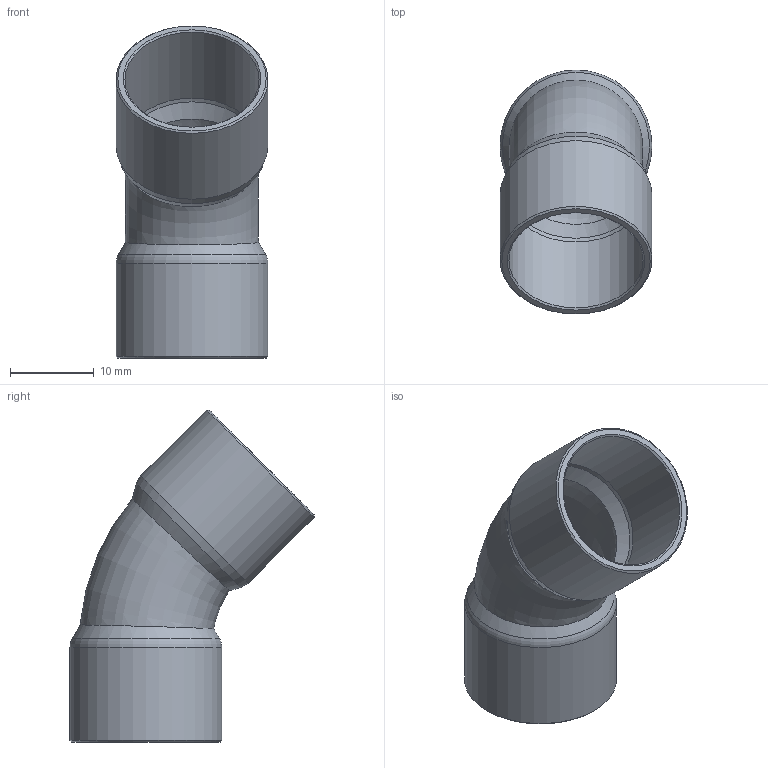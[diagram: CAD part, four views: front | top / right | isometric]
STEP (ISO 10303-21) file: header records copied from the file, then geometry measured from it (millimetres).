
FILE_DESCRIPTION((''),'2;1');
FILE_NAME('G:\SANHA-Ternat\Technik\Management\Bouwmaten + markeringen\z-maattekeningen 3D\29000s\2904158_3d.stp','2017-07-26T11:21:37',('vdvijverd'),(''),'Autodesk Inventor 2009','Autodesk Inventor 2009','');
FILE_SCHEMA(('AUTOMOTIVE_DESIGN { 1 0 10303 214 1 1 1 1 }'));
Length unit declared in the file: millimetre
Products named in the file (1): 2904158_3d
Bounding box: 18.09 x 29.1 x 39.56 mm (x, y, z)
Volume: 2077.5 mm3; surface area: 4052.4 mm2
Topology: 1 solids, 1 shells, 20 faces, 38 edges, 20 vertices
Faces by surface type: bspline 8, cone 6, torus 3, cylinder 2, plane 1
Full cylindrical faces by diameter (mm): 15.995 x1, 18.095 x1
Entity records: 808 total; most frequent: CARTESIAN_POINT 478, DIRECTION 58, ORIENTED_EDGE 40, EDGE_LOOP 40, AXIS2_PLACEMENT_3D 29, VERTEX_POINT 20, EDGE_CURVE 20, FACE_OUTER_BOUND 20
